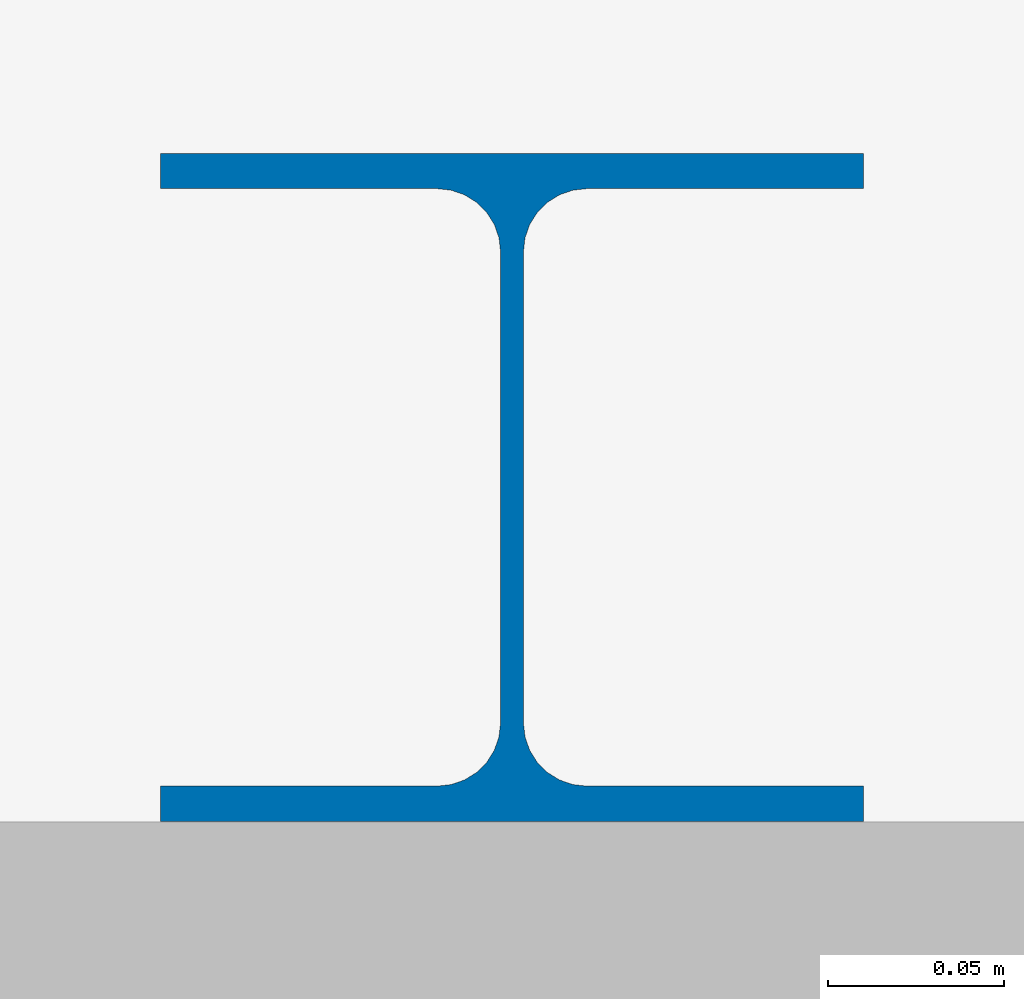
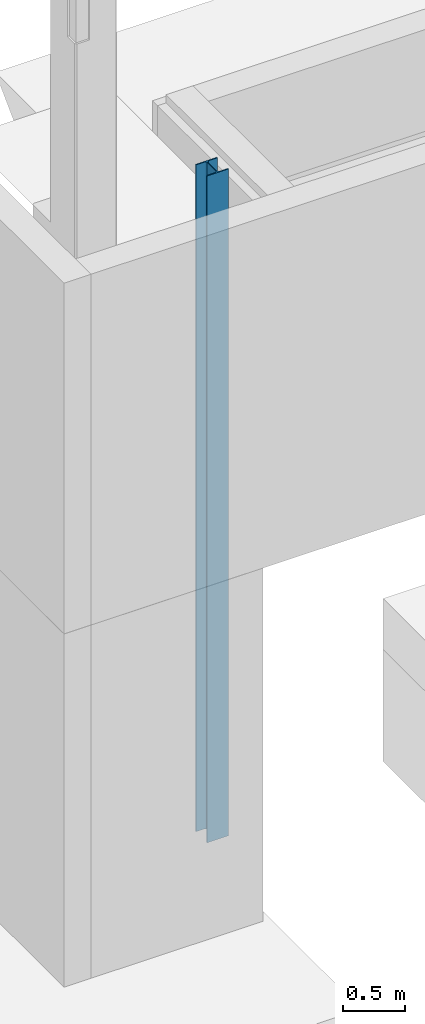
# One storey, part 1 of 12: 1 column.
"""IFC4X3_ADD2 building model written with IfcOpenShell, lengths in millimetres."""

from ifc_helpers import new_model, si_unit, point, direction, frame, frame_2d, origin_with_axes, place, context, subcontext, project, spatial, polyline, circle_curve, trimmed, segment, composite_curve, outline, extrude, source, transform, mapped, material, type_object, type_shapes, element, save


model = new_model("IFC4X3_ADD2")

# Units and contexts
model_context = context("Model", 3, precision=1e-05, world=origin_with_axes(), true_north=direction((0.0, 1.0)))
body_context = subcontext(model_context, "Body", "Model", "MODEL_VIEW")
ifc_project = project(units=[si_unit("LENGTHUNIT", "METRE", prefix="MILLI"), si_unit("AREAUNIT", "SQUARE_METRE"), si_unit("VOLUMEUNIT", "CUBIC_METRE"), si_unit("PLANEANGLEUNIT", "RADIAN"), si_unit("TIMEUNIT", "SECOND"), si_unit("MASSUNIT", "GRAM")], contexts=[model_context])

# Site, building, storey
site_placement = place(None, origin_with_axes())
site = spatial("IfcSite", under=ifc_project, at=site_placement, Name="Site", CompositionType="ELEMENT")
building_placement = place(site_placement, origin_with_axes())
building = spatial("IfcBuilding", under=site, at=building_placement, Name="IFC Building Story")
storey_placement = place(building_placement, frame((0.0, 0.0, -800.0), z_axis=(0.0, 0.0, 1.0), x_axis=(1.0, 0.0, 0.0)))
storey = spatial("IfcBuildingStorey", under=building, at=storey_placement, Name="FOND 00 (0)", Elevation=-800.0)

# Column
ifc_material = material(Name="BS_28_Métal")
column_type = type_object("IfcColumnType", Name="BS_28_SCO_LE_Poteau HE-A_HEA200_1", PredefinedType="NOTDEFINED")
shared_shape = source(origin_with_axes(), body_context, "Body", "SweptSolid", [
    extrude(outline(composite_curve([segment(polyline([(-99.99999999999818, -85.00000000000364), (-21.24999999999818, -85.00000000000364)]), True, "CONTINUOUS"), segment(trimmed(circle_curve(frame_2d((-21.25000000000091, -67.0), x_axis=(1.0, 0.0)), 18.0), [point((-21.24999999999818, -85.00000000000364))], [point((-3.249999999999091, -67.00000000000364))], True, "CARTESIAN"), True, "CONTINUOUS"), segment(polyline([(-3.249999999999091, -67.00000000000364), (-3.249999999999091, 67.0)]), True, "CONTINUOUS"), segment(trimmed(circle_curve(frame_2d((-21.25000000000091, 66.99999999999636), x_axis=(1.0, 0.0)), 18.0), [point((-3.249999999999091, 67.0))], [point((-21.24999999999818, 84.99999999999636))], True, "CARTESIAN"), True, "CONTINUOUS"), segment(polyline([(-21.24999999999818, 84.99999999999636), (-99.99999999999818, 84.99999999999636)]), True, "CONTINUOUS"), segment(polyline([(-99.99999999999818, 84.99999999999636), (-99.99999999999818, 94.99999999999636)]), True, "CONTINUOUS"), segment(polyline([(-99.99999999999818, 94.99999999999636), (100.0000000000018, 94.99999999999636)]), True, "CONTINUOUS"), segment(polyline([(100.0000000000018, 94.99999999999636), (100.0000000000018, 84.99999999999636)]), True, "CONTINUOUS"), segment(polyline([(100.0000000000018, 84.99999999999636), (21.25000000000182, 84.99999999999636)]), True, "CONTINUOUS"), segment(trimmed(circle_curve(frame_2d((21.25000000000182, 66.99999999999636), x_axis=(1.0, 0.0)), 18.0), [point((21.25000000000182, 84.99999999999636))], [point((3.250000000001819, 66.99999999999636))], True, "CARTESIAN"), True, "CONTINUOUS"), segment(polyline([(3.250000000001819, 66.99999999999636), (3.25, -67.00000000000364)]), True, "CONTINUOUS"), segment(trimmed(circle_curve(frame_2d((21.25000000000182, -67.0), x_axis=(1.0, 0.0)), 18.0), [point((3.25, -67.00000000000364))], [point((21.25000000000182, -85.00000000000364))], True, "CARTESIAN"), True, "CONTINUOUS"), segment(polyline([(21.25000000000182, -85.00000000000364), (100.0000000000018, -85.00000000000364)]), True, "CONTINUOUS"), segment(polyline([(100.0000000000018, -85.00000000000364), (100.0000000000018, -95.00000000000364)]), True, "CONTINUOUS"), segment(polyline([(100.0000000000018, -95.00000000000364), (-99.99999999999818, -95.00000000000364)]), True, "CONTINUOUS"), segment(polyline([(-99.99999999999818, -95.00000000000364), (-99.99999999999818, -85.00000000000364)]), True, "CONTINUOUS")], self_intersect=False)), frame((6090.189478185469, 95.27148831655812, 0.0), z_axis=(0.0, 0.0, 1.0), x_axis=(1.0, 0.0, 0.0)), (0.0, 0.0, 1.0), 6550.0),
])
type_shapes(column_type, [shared_shape])
column_placement = place(storey_placement, frame((0.0, 0.0, 800.0), z_axis=(0.0, 0.0, 1.0), x_axis=(1.0, 0.0, 0.0)))
element("IfcColumn", 1, at=column_placement, inside=storey, type_object=column_type, material=ifc_material, Name="BS_28_SCO_LE_Poteau HE-A:HEA200", ObjectType="HEA200", context=body_context, shape_type="MappedRepresentation", body=[
    mapped(shared_shape, transform((0.0, 0.0, 0.0))),
])

save(model, "model.ifc")
